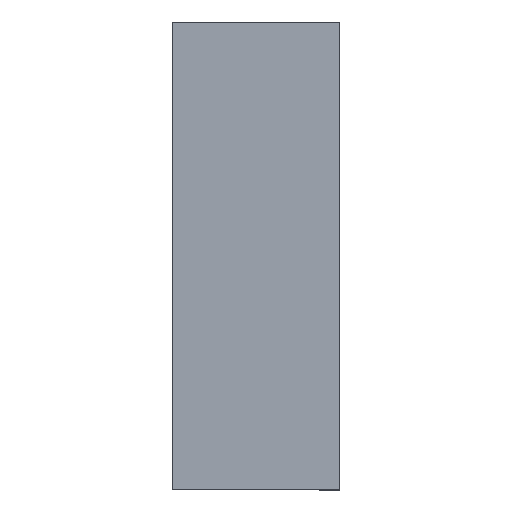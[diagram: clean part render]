
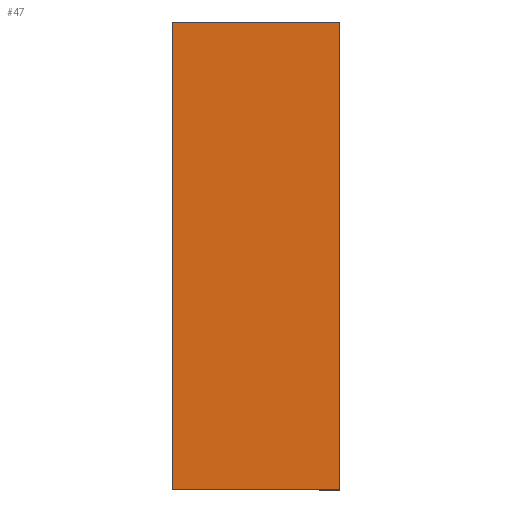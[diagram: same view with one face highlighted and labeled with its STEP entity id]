
A CAD part, top view. The second image highlights one B-rep face of the part: STEP entity #47.
In plain terms, the highlighted planar face has unit normal (0, 0, 1).
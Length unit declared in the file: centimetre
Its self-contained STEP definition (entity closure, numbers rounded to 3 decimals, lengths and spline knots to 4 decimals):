
#47=ADVANCED_FACE('',(#105),#781,.T.);
#105=FACE_OUTER_BOUND('',#163,.T.);
#163=EDGE_LOOP('',(#253,#254,#255,#256));
#253=ORIENTED_EDGE('',*,*,#476,.T.);
#254=ORIENTED_EDGE('',*,*,#469,.F.);
#255=ORIENTED_EDGE('',*,*,#467,.F.);
#256=ORIENTED_EDGE('',*,*,#475,.F.);
#467=EDGE_CURVE('',#704,#705,#587,.T.);
#469=EDGE_CURVE('',#705,#706,#589,.T.);
#475=EDGE_CURVE('',#708,#704,#595,.T.);
#476=EDGE_CURVE('',#708,#706,#596,.T.);
#587=B_SPLINE_CURVE_WITH_KNOTS('',1,(#1027,#1028),.UNSPECIFIED.,.F.,.F.,
(2,2),(0.,140.6),.UNSPECIFIED.);
#589=B_SPLINE_CURVE_WITH_KNOTS('',1,(#1031,#1032),.UNSPECIFIED.,.F.,.F.,
(2,2),(0.,50.4),.UNSPECIFIED.);
#595=B_SPLINE_CURVE_WITH_KNOTS('',1,(#1043,#1044),.UNSPECIFIED.,.F.,.F.,
(2,2),(0.,50.4),.UNSPECIFIED.);
#596=B_SPLINE_CURVE_WITH_KNOTS('',1,(#1045,#1046),.UNSPECIFIED.,.F.,.F.,
(2,2),(0.,140.6),.UNSPECIFIED.);
#704=VERTEX_POINT('',#994);
#705=VERTEX_POINT('',#995);
#706=VERTEX_POINT('',#996);
#708=VERTEX_POINT('',#998);
#781=PLANE('',#859);
#859=AXIS2_PLACEMENT_3D('',#981,#920,$);
#920=DIRECTION('',(0.,0.,1.));
#981=CARTESIAN_POINT('',(55.452,-14.072,8.));
#994=CARTESIAN_POINT('',(0.,0.,8.));
#995=CARTESIAN_POINT('',(0.,140.6,8.));
#996=CARTESIAN_POINT('',(50.4,140.6,8.));
#998=CARTESIAN_POINT('',(50.4,0.,8.));
#1027=CARTESIAN_POINT('',(0.,0.,8.));
#1028=CARTESIAN_POINT('',(0.,140.6,8.));
#1031=CARTESIAN_POINT('',(0.,140.6,8.));
#1032=CARTESIAN_POINT('',(50.4,140.6,8.));
#1043=CARTESIAN_POINT('',(50.4,0.,8.));
#1044=CARTESIAN_POINT('',(0.,0.,8.));
#1045=CARTESIAN_POINT('',(50.4,0.,8.));
#1046=CARTESIAN_POINT('',(50.4,140.6,8.));
